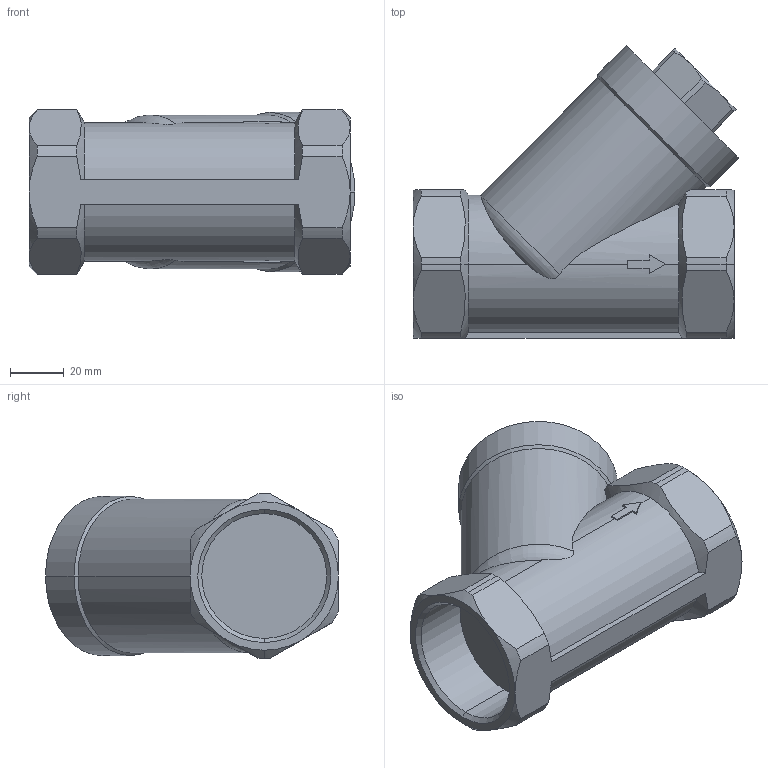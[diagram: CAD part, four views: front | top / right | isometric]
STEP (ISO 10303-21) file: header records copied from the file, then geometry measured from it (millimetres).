
FILE_DESCRIPTION (( 'STEP AP203' ), '1' );
FILE_NAME ('Y6.623040FNC.STEP', '2018-12-14T08:21:39', ( 'dell2' ), ( 'Microsoft' ), 'SwSTEP 2.0', 'SolidWorks 2017', '' );
FILE_SCHEMA (( 'CONFIG_CONTROL_DESIGN' ));
Length unit declared in the file: millimetre
Products named in the file (1): Y6.623040FNC
Bounding box: 120.77 x 108.56 x 61 mm (x, y, z)
Volume: 348999.6 mm3; surface area: 43157.5 mm2
Topology: 1 solids, 1 shells, 108 faces, 274 edges, 171 vertices
Faces by surface type: plane 41, cylinder 33, cone 32, torus 2
Entity records: 3788 total; most frequent: CARTESIAN_POINT 1177, ORIENTED_EDGE 548, DIRECTION 519, EDGE_CURVE 274, AXIS2_PLACEMENT_3D 207, VERTEX_POINT 171, EDGE_LOOP 111, FACE_OUTER_BOUND 108
